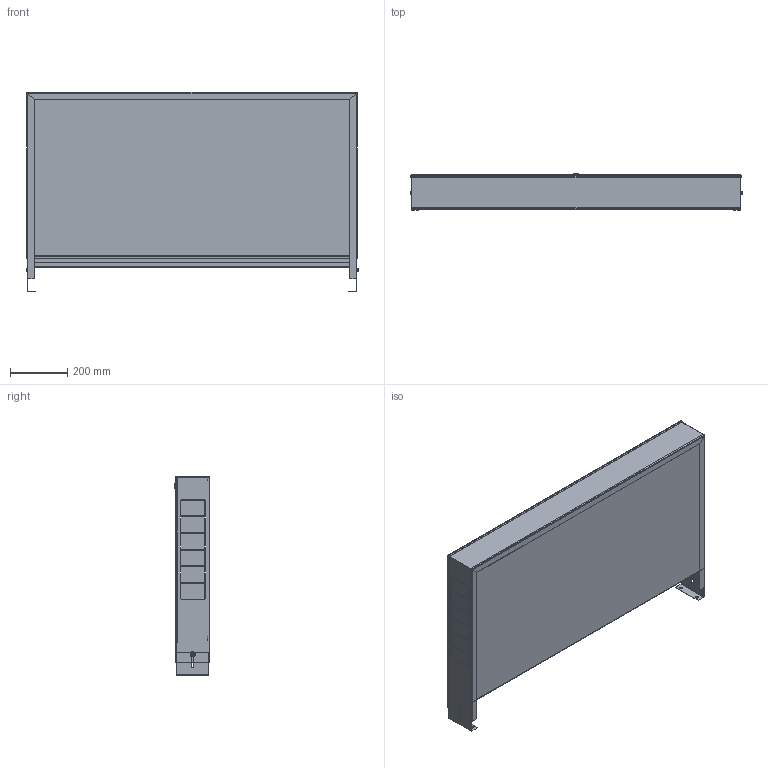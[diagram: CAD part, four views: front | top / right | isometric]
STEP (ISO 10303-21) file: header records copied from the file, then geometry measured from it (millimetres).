
FILE_DESCRIPTION(('TFLEX Exchange Step'),'2;1');
FILE_NAME('Manifold cabinet VTc.541.0.06 Valtec.stp', '2023-10-11T13:53:43+03:00',('denis'),('Unknown organisation'),'TFLEX Exchange 2023.0','T-FLEX CAD','Unknown authorisation');
FILE_SCHEMA( ('AUTOMOTIVE_DESIGN { 1 0 10303 214 1 1 1 1 }') );
Length unit declared in the file: millimetre
Products named in the file (1): Nodes
Bounding box: 1159 x 124.9 x 695 mm (x, y, z)
Volume: 1504149.7 mm3; surface area: 3662445.3 mm2
Topology: 9 solids, 10 shells, 504 faces, 1335 edges, 859 vertices
Faces by surface type: plane 372, cylinder 87, cone 31, bspline 12, torus 2
Full cylindrical faces by diameter (mm): 6 x4, 6.4 x2, 7 x2, 10 x5, 12 x1, 16 x1, 18 x2, 20 x2
Entity records: 18079 total; most frequent: CARTESIAN_POINT 5474, ORIENTED_EDGE 2670, DIRECTION 2391, EDGE_CURVE 1335, VECTOR 1009, LINE 1009, VERTEX_POINT 859, AXIS2_PLACEMENT_3D 691
